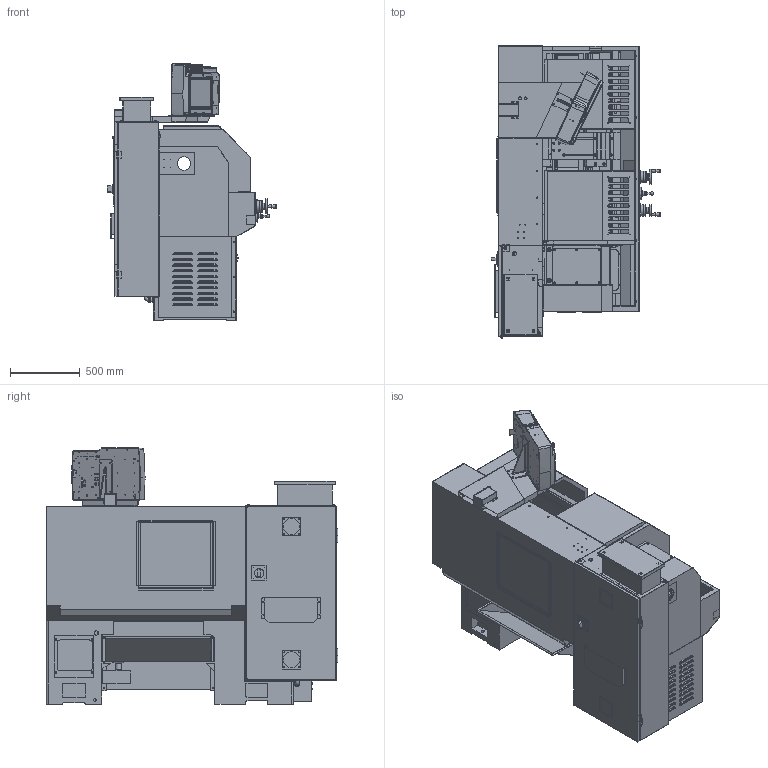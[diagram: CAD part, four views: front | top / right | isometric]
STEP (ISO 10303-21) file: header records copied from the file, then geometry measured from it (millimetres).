
FILE_DESCRIPTION( ( 'Unknown' ), '1' );
FILE_NAME( '//SERVERENG2/Data/DRAWINGS/1630RX HS-Simplified.stp', 'Unknown', ( 'Unknown' ), ( 'Unknown' ), 'PSStep 14.0', 'Unknown', ' ' );
FILE_SCHEMA( ( 'AUTOMOTIVE_DESIGN { 1 0 10303 214 1 1 1 1 }' ) );
Length unit declared in the file: millimetre
Products named in the file (124): 1; 2; 3; 4; 5; 25-0208A; 6; 7; 8; 9; 10; 11; 12; 13; 14; 15; 16; 17; 18; 19; 20; 21; 22; 23; 24; 25; 26; 27; 28; 29; 30; 31; 32; 33; 34; 35; 36; 37; 38; 39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
Bounding box: 1211.61 x 2092 x 1837.26 mm (x, y, z)
Surface area: 32763360.5 mm2 (no closed solid volume)
Topology: 0 solids, 1668 shells, 1668 faces, 11257 edges, 11093 vertices
Faces by surface type: plane 1134, cylinder 334, bspline 93, cone 52, torus 50, extrusion 3, sphere 2
Full cylindrical faces by diameter (mm): 4.917 x2, 6.35 x1, 6.5 x6, 6.647 x1, 6.9 x1, 7 x5, 7.112 x3, 7.5 x4, 8.89 x1, 9 x2, 9.2 x3, 10 x4, 10.106 x2, 10.668 x8, 12 x4, 12.7 x1, 12.878 x1, 14 x7, 16 x4, 16.154 x2, 17.056 x1, 17.294 x1, 18.395 x1, 19 x1, 19.05 x1, 20 x2, 21.5 x8, 22.835 x4, 23.139 x2, 23.876 x1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
Entity records: 137025 total; most frequent: CARTESIAN_POINT 40976, DIRECTION 16629, ORIENTED_EDGE 11024, EDGE_CURVE 11024, VERTEX_POINT 11024, VECTOR 7009, LINE 7006, AXIS2_PLACEMENT_3D 4810
